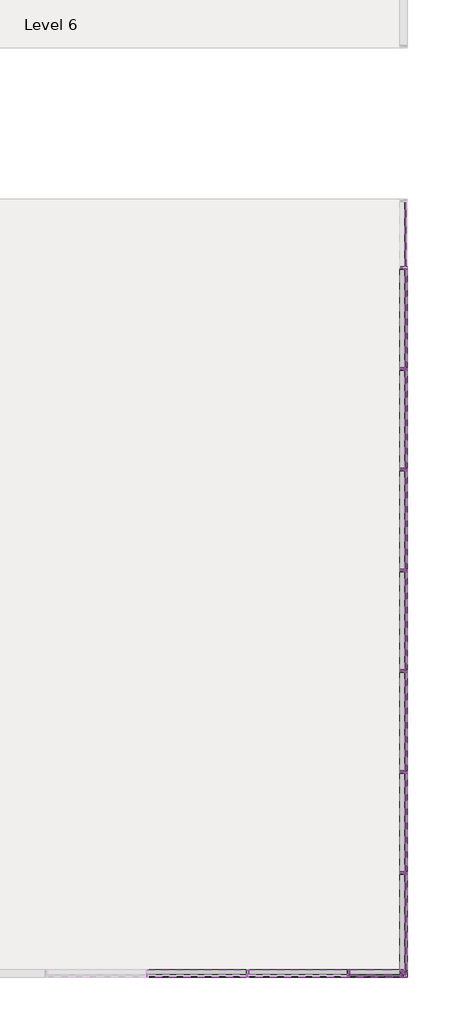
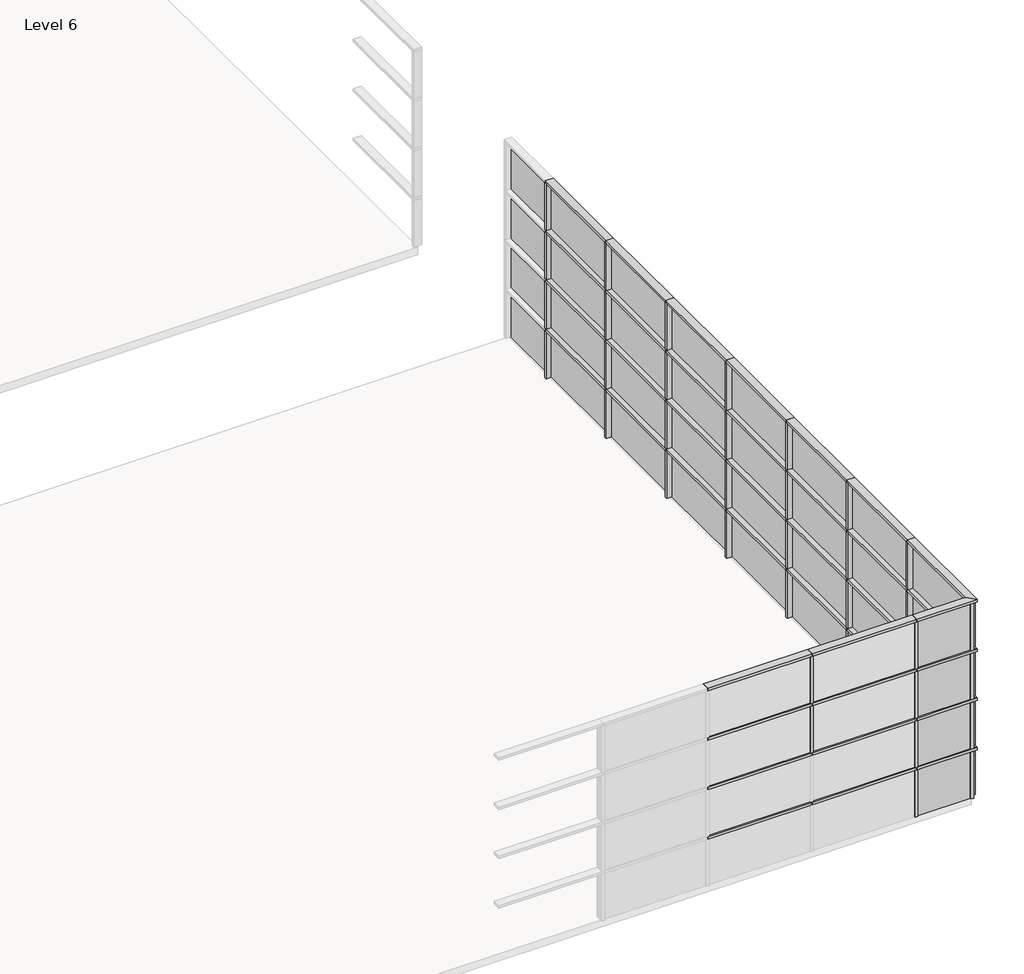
# One storey, part 3 of 5: 82 members, 36 plates.
"""IFC4 building model written with IfcOpenShell, lengths in millimetres."""

from ifc_helpers import new_model, si_unit, origin, place, context, project, spatial, transform, mapped, element, save
from components import rectangular_mullion_50_x_150mm_a053b0ca, rectangular_mullion_50_x_150mm_3a148f0f, rectangular_mullion_50_x_150mm_12a430f9, rectangular_mullion_50_x_150mm_947845bb, rectangular_mullion_50_x_150mm_f68fa77e, system_panel_glazed_751a585c, system_panel_glazed_08de6f5f, system_panel_glazed_3987acf4, system_panel_glazed_8ec8f306

model = new_model("IFC4")

# Units and contexts
model_context = context("Model", 3, world=origin())
ifc_project = project(units=[si_unit("LENGTHUNIT", "METRE", prefix="MILLI")], contexts=[model_context])

# Site, building, storey
site = spatial("IfcSite", under=ifc_project)
building = spatial("IfcBuilding", under=site)
storey = spatial("IfcBuildingStorey", under=building, Name="Level 6", Elevation=20000.0)

# Members
placement = place(None, origin())
rectangular_mullion_50_x_150mm_shape = rectangular_mullion_50_x_150mm_a053b0ca(model_context)
element("IfcMember", 1, ObjectType="Rectangular Mullion : 50 x 150mm", at=placement, inside=storey, context=model_context, shape_type="MappedRepresentation", body=[
    mapped(rectangular_mullion_50_x_150mm_shape, transform((10412.826594, -21988.7417365, 22025.0), x_axis=(1.0, 0.0, 0.0), y_axis=(0.0, -1.0, 0.0), z_axis=(0.0, 0.0, -0.9999999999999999))),
])
element("IfcMember", 2, ObjectType="Rectangular Mullion : 50 x 150mm", at=placement, inside=storey, context=model_context, shape_type="MappedRepresentation", body=[
    mapped(rectangular_mullion_50_x_150mm_shape, transform((10412.826594, -21988.7417365, 23025.0), x_axis=(1.0, 0.0, 0.0), y_axis=(0.0, -1.0, 0.0), z_axis=(0.0, 0.0, -0.9999999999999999))),
])
element("IfcMember", 3, ObjectType="Rectangular Mullion : 50 x 150mm", at=placement, inside=storey, context=model_context, shape_type="MappedRepresentation", body=[
    mapped(rectangular_mullion_50_x_150mm_shape, transform((12412.826594, -21988.7417365, 20025.0), x_axis=(1.0, 0.0, 0.0), y_axis=(0.0, -1.0, 0.0), z_axis=(0.0, 0.0, -0.9999999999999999))),
])
element("IfcMember", 4, ObjectType="Rectangular Mullion : 50 x 150mm", at=placement, inside=storey, context=model_context, shape_type="MappedRepresentation", body=[
    mapped(rectangular_mullion_50_x_150mm_shape, transform((12412.826594, -21988.7417365, 21025.0), x_axis=(1.0, 0.0, 0.0), y_axis=(0.0, -1.0, 0.0), z_axis=(0.0, 0.0, -0.9999999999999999))),
])
element("IfcMember", 5, ObjectType="Rectangular Mullion : 50 x 150mm", at=placement, inside=storey, context=model_context, shape_type="MappedRepresentation", body=[
    mapped(rectangular_mullion_50_x_150mm_shape, transform((12412.826594, -21988.7417365, 22025.0), x_axis=(1.0, 0.0, 0.0), y_axis=(0.0, -1.0, 0.0), z_axis=(0.0, 0.0, -0.9999999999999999))),
])
element("IfcMember", 6, ObjectType="Rectangular Mullion : 50 x 150mm", at=placement, inside=storey, context=model_context, shape_type="MappedRepresentation", body=[
    mapped(rectangular_mullion_50_x_150mm_shape, transform((12412.826594, -21988.7417365, 23025.0), x_axis=(1.0, 0.0, 0.0), y_axis=(0.0, -1.0, 0.0), z_axis=(0.0, 0.0, -0.9999999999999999))),
])
element("IfcMember", 7, ObjectType="Rectangular Mullion : 50 x 150mm", at=placement, inside=storey, context=model_context, shape_type="MappedRepresentation", body=[
    mapped(rectangular_mullion_50_x_150mm_shape, transform((13503.2660975, -13988.7417365, 20025.0), x_axis=(0.0, 1.0, 0.0), y_axis=(1.0, 0.0, 0.0), z_axis=(0.0, 0.0, -0.9999999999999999))),
])
element("IfcMember", 8, ObjectType="Rectangular Mullion : 50 x 150mm", at=placement, inside=storey, context=model_context, shape_type="MappedRepresentation", body=[
    mapped(rectangular_mullion_50_x_150mm_shape, transform((13503.2660975, -13988.7417365, 21025.0), x_axis=(0.0, 1.0, 0.0), y_axis=(1.0, 0.0, 0.0), z_axis=(0.0, 0.0, -0.9999999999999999))),
])
element("IfcMember", 9, ObjectType="Rectangular Mullion : 50 x 150mm", at=placement, inside=storey, context=model_context, shape_type="MappedRepresentation", body=[
    mapped(rectangular_mullion_50_x_150mm_shape, transform((13503.2660975, -13988.7417365, 22025.0), x_axis=(0.0, 1.0, 0.0), y_axis=(1.0, 0.0, 0.0), z_axis=(0.0, 0.0, -0.9999999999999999))),
])
element("IfcMember", 10, ObjectType="Rectangular Mullion : 50 x 150mm", at=placement, inside=storey, context=model_context, shape_type="MappedRepresentation", body=[
    mapped(rectangular_mullion_50_x_150mm_shape, transform((13503.2660975, -13988.7417365, 23025.0), x_axis=(0.0, 1.0, 0.0), y_axis=(1.0, 0.0, 0.0), z_axis=(0.0, 0.0, -0.9999999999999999))),
])
element("IfcMember", 11, ObjectType="Rectangular Mullion : 50 x 150mm", at=placement, inside=storey, context=model_context, shape_type="MappedRepresentation", body=[
    mapped(rectangular_mullion_50_x_150mm_shape, transform((13503.2660975, -11988.7417365, 20025.0), x_axis=(0.0, 1.0, 0.0), y_axis=(1.0, 0.0, 0.0), z_axis=(0.0, 0.0, -0.9999999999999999))),
])
element("IfcMember", 12, ObjectType="Rectangular Mullion : 50 x 150mm", at=placement, inside=storey, context=model_context, shape_type="MappedRepresentation", body=[
    mapped(rectangular_mullion_50_x_150mm_shape, transform((13503.2660975, -11988.7417365, 21025.0), x_axis=(0.0, 1.0, 0.0), y_axis=(1.0, 0.0, 0.0), z_axis=(0.0, 0.0, -0.9999999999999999))),
])
element("IfcMember", 13, ObjectType="Rectangular Mullion : 50 x 150mm", at=placement, inside=storey, context=model_context, shape_type="MappedRepresentation", body=[
    mapped(rectangular_mullion_50_x_150mm_shape, transform((13503.2660975, -11988.7417365, 22025.0), x_axis=(0.0, 1.0, 0.0), y_axis=(1.0, 0.0, 0.0), z_axis=(0.0, 0.0, -0.9999999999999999))),
])
element("IfcMember", 14, ObjectType="Rectangular Mullion : 50 x 150mm", at=placement, inside=storey, context=model_context, shape_type="MappedRepresentation", body=[
    mapped(rectangular_mullion_50_x_150mm_shape, transform((13503.2660975, -11988.7417365, 23025.0), x_axis=(0.0, 1.0, 0.0), y_axis=(1.0, 0.0, 0.0), z_axis=(0.0, 0.0, -0.9999999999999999))),
])
element("IfcMember", 15, ObjectType="Rectangular Mullion : 50 x 150mm", at=placement, inside=storey, context=model_context, shape_type="MappedRepresentation", body=[
    mapped(rectangular_mullion_50_x_150mm_shape, transform((13503.2660975, -9988.7417365, 20025.0), x_axis=(0.0, 1.0, 0.0), y_axis=(1.0, 0.0, 0.0), z_axis=(0.0, 0.0, -0.9999999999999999))),
])
element("IfcMember", 16, ObjectType="Rectangular Mullion : 50 x 150mm", at=placement, inside=storey, context=model_context, shape_type="MappedRepresentation", body=[
    mapped(rectangular_mullion_50_x_150mm_shape, transform((13503.2660975, -9988.7417365, 21025.0), x_axis=(0.0, 1.0, 0.0), y_axis=(1.0, 0.0, 0.0), z_axis=(0.0, 0.0, -0.9999999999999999))),
])
element("IfcMember", 17, ObjectType="Rectangular Mullion : 50 x 150mm", at=placement, inside=storey, context=model_context, shape_type="MappedRepresentation", body=[
    mapped(rectangular_mullion_50_x_150mm_shape, transform((13503.2660975, -9988.7417365, 22025.0), x_axis=(0.0, 1.0, 0.0), y_axis=(1.0, 0.0, 0.0), z_axis=(0.0, 0.0, -0.9999999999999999))),
])
element("IfcMember", 18, ObjectType="Rectangular Mullion : 50 x 150mm", at=placement, inside=storey, context=model_context, shape_type="MappedRepresentation", body=[
    mapped(rectangular_mullion_50_x_150mm_shape, transform((13503.2660975, -9988.7417365, 23025.0), x_axis=(0.0, 1.0, 0.0), y_axis=(1.0, 0.0, 0.0), z_axis=(0.0, 0.0, -0.9999999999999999))),
])
element("IfcMember", 19, ObjectType="Rectangular Mullion : 50 x 150mm", at=placement, inside=storey, context=model_context, shape_type="MappedRepresentation", body=[
    mapped(rectangular_mullion_50_x_150mm_shape, transform((13503.2660975, -7988.7417365, 20025.0), x_axis=(0.0, 1.0, 0.0), y_axis=(1.0, 0.0, 0.0), z_axis=(0.0, 0.0, -0.9999999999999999))),
])
element("IfcMember", 20, ObjectType="Rectangular Mullion : 50 x 150mm", at=placement, inside=storey, context=model_context, shape_type="MappedRepresentation", body=[
    mapped(rectangular_mullion_50_x_150mm_shape, transform((13503.2660975, -7988.7417365, 21025.0), x_axis=(0.0, 1.0, 0.0), y_axis=(1.0, 0.0, 0.0), z_axis=(0.0, 0.0, -0.9999999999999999))),
])
element("IfcMember", 21, ObjectType="Rectangular Mullion : 50 x 150mm", at=placement, inside=storey, context=model_context, shape_type="MappedRepresentation", body=[
    mapped(rectangular_mullion_50_x_150mm_shape, transform((13503.2660975, -7988.7417365, 22025.0), x_axis=(0.0, 1.0, 0.0), y_axis=(1.0, 0.0, 0.0), z_axis=(0.0, 0.0, -0.9999999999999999))),
])
element("IfcMember", 22, ObjectType="Rectangular Mullion : 50 x 150mm", at=placement, inside=storey, context=model_context, shape_type="MappedRepresentation", body=[
    mapped(rectangular_mullion_50_x_150mm_shape, transform((13503.2660975, -7988.7417365, 23025.0), x_axis=(0.0, 1.0, 0.0), y_axis=(1.0, 0.0, 0.0), z_axis=(0.0, 0.0, -0.9999999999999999))),
])
element("IfcMember", 23, ObjectType="Rectangular Mullion : 50 x 150mm", at=placement, inside=storey, context=model_context, shape_type="MappedRepresentation", body=[
    mapped(rectangular_mullion_50_x_150mm_shape, transform((13503.2660975, -19988.7417365, 20025.0), x_axis=(0.0, 1.0, 0.0), y_axis=(1.0, 0.0, 0.0), z_axis=(0.0, 0.0, -0.9999999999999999))),
])
element("IfcMember", 24, ObjectType="Rectangular Mullion : 50 x 150mm", at=placement, inside=storey, context=model_context, shape_type="MappedRepresentation", body=[
    mapped(rectangular_mullion_50_x_150mm_shape, transform((13503.2660975, -19988.7417365, 21025.0), x_axis=(0.0, 1.0, 0.0), y_axis=(1.0, 0.0, 0.0), z_axis=(0.0, 0.0, -0.9999999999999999))),
])
element("IfcMember", 25, ObjectType="Rectangular Mullion : 50 x 150mm", at=placement, inside=storey, context=model_context, shape_type="MappedRepresentation", body=[
    mapped(rectangular_mullion_50_x_150mm_shape, transform((13503.2660975, -19988.7417365, 22025.0), x_axis=(0.0, 1.0, 0.0), y_axis=(1.0, 0.0, 0.0), z_axis=(0.0, 0.0, -0.9999999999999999))),
])
element("IfcMember", 26, ObjectType="Rectangular Mullion : 50 x 150mm", at=placement, inside=storey, context=model_context, shape_type="MappedRepresentation", body=[
    mapped(rectangular_mullion_50_x_150mm_shape, transform((13503.2660975, -19988.7417365, 23025.0), x_axis=(0.0, 1.0, 0.0), y_axis=(1.0, 0.0, 0.0), z_axis=(0.0, 0.0, -0.9999999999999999))),
])
element("IfcMember", 27, ObjectType="Rectangular Mullion : 50 x 150mm", at=placement, inside=storey, context=model_context, shape_type="MappedRepresentation", body=[
    mapped(rectangular_mullion_50_x_150mm_shape, transform((13503.2660975, -17988.7417365, 20025.0), x_axis=(0.0, 1.0, 0.0), y_axis=(1.0, 0.0, 0.0), z_axis=(0.0, 0.0, -0.9999999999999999))),
])
element("IfcMember", 28, ObjectType="Rectangular Mullion : 50 x 150mm", at=placement, inside=storey, context=model_context, shape_type="MappedRepresentation", body=[
    mapped(rectangular_mullion_50_x_150mm_shape, transform((13503.2660975, -17988.7417365, 21025.0), x_axis=(0.0, 1.0, 0.0), y_axis=(1.0, 0.0, 0.0), z_axis=(0.0, 0.0, -0.9999999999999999))),
])
element("IfcMember", 29, ObjectType="Rectangular Mullion : 50 x 150mm", at=placement, inside=storey, context=model_context, shape_type="MappedRepresentation", body=[
    mapped(rectangular_mullion_50_x_150mm_shape, transform((13503.2660975, -17988.7417365, 22025.0), x_axis=(0.0, 1.0, 0.0), y_axis=(1.0, 0.0, 0.0), z_axis=(0.0, 0.0, -0.9999999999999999))),
])
element("IfcMember", 30, ObjectType="Rectangular Mullion : 50 x 150mm", at=placement, inside=storey, context=model_context, shape_type="MappedRepresentation", body=[
    mapped(rectangular_mullion_50_x_150mm_shape, transform((13503.2660975, -17988.7417365, 23025.0), x_axis=(0.0, 1.0, 0.0), y_axis=(1.0, 0.0, 0.0), z_axis=(0.0, 0.0, -0.9999999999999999))),
])
element("IfcMember", 31, ObjectType="Rectangular Mullion : 50 x 150mm", at=placement, inside=storey, context=model_context, shape_type="MappedRepresentation", body=[
    mapped(rectangular_mullion_50_x_150mm_shape, transform((13503.2660975, -15988.7417365, 20025.0), x_axis=(0.0, 1.0, 0.0), y_axis=(1.0, 0.0, 0.0), z_axis=(0.0, 0.0, -0.9999999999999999))),
])
element("IfcMember", 32, ObjectType="Rectangular Mullion : 50 x 150mm", at=placement, inside=storey, context=model_context, shape_type="MappedRepresentation", body=[
    mapped(rectangular_mullion_50_x_150mm_shape, transform((13503.2660975, -15988.7417365, 21025.0), x_axis=(0.0, 1.0, 0.0), y_axis=(1.0, 0.0, 0.0), z_axis=(0.0, 0.0, -0.9999999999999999))),
])
element("IfcMember", 33, ObjectType="Rectangular Mullion : 50 x 150mm", at=placement, inside=storey, context=model_context, shape_type="MappedRepresentation", body=[
    mapped(rectangular_mullion_50_x_150mm_shape, transform((13503.2660975, -15988.7417365, 22025.0), x_axis=(0.0, 1.0, 0.0), y_axis=(1.0, 0.0, 0.0), z_axis=(0.0, 0.0, -0.9999999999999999))),
])
element("IfcMember", 34, ObjectType="Rectangular Mullion : 50 x 150mm", at=placement, inside=storey, context=model_context, shape_type="MappedRepresentation", body=[
    mapped(rectangular_mullion_50_x_150mm_shape, transform((13503.2660975, -15988.7417365, 23025.0), x_axis=(0.0, 1.0, 0.0), y_axis=(1.0, 0.0, 0.0), z_axis=(0.0, 0.0, -0.9999999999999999))),
])
rectangular_mullion_50_x_150mm_2_shape = rectangular_mullion_50_x_150mm_3a148f0f(model_context)
element("IfcMember", 35, ObjectType="Rectangular Mullion : 50 x 150mm", at=placement, inside=storey, context=model_context, shape_type="MappedRepresentation", body=[
    mapped(rectangular_mullion_50_x_150mm_2_shape, transform((10412.826594, -21988.7417365, 21000.0), x_axis=(0.0, 0.0, 1.0), y_axis=(0.0, -1.0, 0.0), z_axis=(1.0, 0.0, 0.0))),
])
element("IfcMember", 36, ObjectType="Rectangular Mullion : 50 x 150mm", at=placement, inside=storey, context=model_context, shape_type="MappedRepresentation", body=[
    mapped(rectangular_mullion_50_x_150mm_2_shape, transform((12412.826594, -21988.7417365, 21000.0), x_axis=(0.0, 0.0, 1.0), y_axis=(0.0, -1.0, 0.0), z_axis=(1.0, 0.0, 0.0))),
])
element("IfcMember", 37, ObjectType="Rectangular Mullion : 50 x 150mm", at=placement, inside=storey, context=model_context, shape_type="MappedRepresentation", body=[
    mapped(rectangular_mullion_50_x_150mm_2_shape, transform((10412.826594, -21988.7417365, 22000.0), x_axis=(0.0, 0.0, 1.0), y_axis=(0.0, -1.0, 0.0), z_axis=(1.0, 0.0, 0.0))),
])
element("IfcMember", 38, ObjectType="Rectangular Mullion : 50 x 150mm", at=placement, inside=storey, context=model_context, shape_type="MappedRepresentation", body=[
    mapped(rectangular_mullion_50_x_150mm_2_shape, transform((12412.826594, -21988.7417365, 22000.0), x_axis=(0.0, 0.0, 1.0), y_axis=(0.0, -1.0, 0.0), z_axis=(1.0, 0.0, 0.0))),
])
element("IfcMember", 39, ObjectType="Rectangular Mullion : 50 x 150mm", at=placement, inside=storey, context=model_context, shape_type="MappedRepresentation", body=[
    mapped(rectangular_mullion_50_x_150mm_2_shape, transform((10412.826594, -21988.7417365, 23000.0), x_axis=(0.0, 0.0, 1.0), y_axis=(0.0, -1.0, 0.0), z_axis=(1.0, 0.0, 0.0))),
])
element("IfcMember", 40, ObjectType="Rectangular Mullion : 50 x 150mm", at=placement, inside=storey, context=model_context, shape_type="MappedRepresentation", body=[
    mapped(rectangular_mullion_50_x_150mm_2_shape, transform((12412.826594, -21988.7417365, 23000.0), x_axis=(0.0, 0.0, 1.0), y_axis=(0.0, -1.0, 0.0), z_axis=(1.0, 0.0, 0.0))),
])
element("IfcMember", 41, ObjectType="Rectangular Mullion : 50 x 150mm", at=placement, inside=storey, context=model_context, shape_type="MappedRepresentation", body=[
    mapped(rectangular_mullion_50_x_150mm_2_shape, transform((10412.826594, -21988.7417365, 24000.0), x_axis=(0.0, 0.0, 1.0), y_axis=(0.0, -1.0, 0.0), z_axis=(1.0, 0.0, 0.0))),
])
element("IfcMember", 42, ObjectType="Rectangular Mullion : 50 x 150mm", at=placement, inside=storey, context=model_context, shape_type="MappedRepresentation", body=[
    mapped(rectangular_mullion_50_x_150mm_2_shape, transform((12412.826594, -21988.7417365, 24000.0), x_axis=(0.0, 0.0, 1.0), y_axis=(0.0, -1.0, 0.0), z_axis=(1.0, 0.0, 0.0))),
])
element("IfcMember", 43, ObjectType="Rectangular Mullion : 50 x 150mm", at=placement, inside=storey, context=model_context, shape_type="MappedRepresentation", body=[
    mapped(rectangular_mullion_50_x_150mm_2_shape, transform((13503.2660975, -17988.7417365, 21000.0), x_axis=(0.0, 0.0, 1.0), y_axis=(1.0, 0.0, 0.0), z_axis=(0.0, 1.0, 0.0))),
])
element("IfcMember", 44, ObjectType="Rectangular Mullion : 50 x 150mm", at=placement, inside=storey, context=model_context, shape_type="MappedRepresentation", body=[
    mapped(rectangular_mullion_50_x_150mm_2_shape, transform((13503.2660975, -15988.7417365, 21000.0), x_axis=(0.0, 0.0, 1.0), y_axis=(1.0, 0.0, 0.0), z_axis=(0.0, 1.0, 0.0))),
])
element("IfcMember", 45, ObjectType="Rectangular Mullion : 50 x 150mm", at=placement, inside=storey, context=model_context, shape_type="MappedRepresentation", body=[
    mapped(rectangular_mullion_50_x_150mm_2_shape, transform((13503.2660975, -13988.7417365, 21000.0), x_axis=(0.0, 0.0, 1.0), y_axis=(1.0, 0.0, 0.0), z_axis=(0.0, 1.0, 0.0))),
])
element("IfcMember", 46, ObjectType="Rectangular Mullion : 50 x 150mm", at=placement, inside=storey, context=model_context, shape_type="MappedRepresentation", body=[
    mapped(rectangular_mullion_50_x_150mm_2_shape, transform((13503.2660975, -11988.7417365, 21000.0), x_axis=(0.0, 0.0, 1.0), y_axis=(1.0, 0.0, 0.0), z_axis=(0.0, 1.0, 0.0))),
])
element("IfcMember", 47, ObjectType="Rectangular Mullion : 50 x 150mm", at=placement, inside=storey, context=model_context, shape_type="MappedRepresentation", body=[
    mapped(rectangular_mullion_50_x_150mm_2_shape, transform((13503.2660975, -9988.7417365, 21000.0), x_axis=(0.0, 0.0, 1.0), y_axis=(1.0, 0.0, 0.0), z_axis=(0.0, 1.0, 0.0))),
])
element("IfcMember", 48, ObjectType="Rectangular Mullion : 50 x 150mm", at=placement, inside=storey, context=model_context, shape_type="MappedRepresentation", body=[
    mapped(rectangular_mullion_50_x_150mm_2_shape, transform((13503.2660975, -7988.7417365, 21000.0), x_axis=(0.0, 0.0, 1.0), y_axis=(1.0, 0.0, 0.0), z_axis=(0.0, 1.0, 0.0))),
])
element("IfcMember", 49, ObjectType="Rectangular Mullion : 50 x 150mm", at=placement, inside=storey, context=model_context, shape_type="MappedRepresentation", body=[
    mapped(rectangular_mullion_50_x_150mm_2_shape, transform((13503.2660975, -17988.7417365, 22000.0), x_axis=(0.0, 0.0, 1.0), y_axis=(1.0, 0.0, 0.0), z_axis=(0.0, 1.0, 0.0))),
])
element("IfcMember", 50, ObjectType="Rectangular Mullion : 50 x 150mm", at=placement, inside=storey, context=model_context, shape_type="MappedRepresentation", body=[
    mapped(rectangular_mullion_50_x_150mm_2_shape, transform((13503.2660975, -15988.7417365, 22000.0), x_axis=(0.0, 0.0, 1.0), y_axis=(1.0, 0.0, 0.0), z_axis=(0.0, 1.0, 0.0))),
])
element("IfcMember", 51, ObjectType="Rectangular Mullion : 50 x 150mm", at=placement, inside=storey, context=model_context, shape_type="MappedRepresentation", body=[
    mapped(rectangular_mullion_50_x_150mm_2_shape, transform((13503.2660975, -13988.7417365, 22000.0), x_axis=(0.0, 0.0, 1.0), y_axis=(1.0, 0.0, 0.0), z_axis=(0.0, 1.0, 0.0))),
])
element("IfcMember", 52, ObjectType="Rectangular Mullion : 50 x 150mm", at=placement, inside=storey, context=model_context, shape_type="MappedRepresentation", body=[
    mapped(rectangular_mullion_50_x_150mm_2_shape, transform((13503.2660975, -11988.7417365, 22000.0), x_axis=(0.0, 0.0, 1.0), y_axis=(1.0, 0.0, 0.0), z_axis=(0.0, 1.0, 0.0))),
])
element("IfcMember", 53, ObjectType="Rectangular Mullion : 50 x 150mm", at=placement, inside=storey, context=model_context, shape_type="MappedRepresentation", body=[
    mapped(rectangular_mullion_50_x_150mm_2_shape, transform((13503.2660975, -9988.7417365, 22000.0), x_axis=(0.0, 0.0, 1.0), y_axis=(1.0, 0.0, 0.0), z_axis=(0.0, 1.0, 0.0))),
])
element("IfcMember", 54, ObjectType="Rectangular Mullion : 50 x 150mm", at=placement, inside=storey, context=model_context, shape_type="MappedRepresentation", body=[
    mapped(rectangular_mullion_50_x_150mm_2_shape, transform((13503.2660975, -7988.7417365, 22000.0), x_axis=(0.0, 0.0, 1.0), y_axis=(1.0, 0.0, 0.0), z_axis=(0.0, 1.0, 0.0))),
])
element("IfcMember", 55, ObjectType="Rectangular Mullion : 50 x 150mm", at=placement, inside=storey, context=model_context, shape_type="MappedRepresentation", body=[
    mapped(rectangular_mullion_50_x_150mm_2_shape, transform((13503.2660975, -17988.7417365, 23000.0), x_axis=(0.0, 0.0, 1.0), y_axis=(1.0, 0.0, 0.0), z_axis=(0.0, 1.0, 0.0))),
])
element("IfcMember", 56, ObjectType="Rectangular Mullion : 50 x 150mm", at=placement, inside=storey, context=model_context, shape_type="MappedRepresentation", body=[
    mapped(rectangular_mullion_50_x_150mm_2_shape, transform((13503.2660975, -15988.7417365, 23000.0), x_axis=(0.0, 0.0, 1.0), y_axis=(1.0, 0.0, 0.0), z_axis=(0.0, 1.0, 0.0))),
])
element("IfcMember", 57, ObjectType="Rectangular Mullion : 50 x 150mm", at=placement, inside=storey, context=model_context, shape_type="MappedRepresentation", body=[
    mapped(rectangular_mullion_50_x_150mm_2_shape, transform((13503.2660975, -13988.7417365, 23000.0), x_axis=(0.0, 0.0, 1.0), y_axis=(1.0, 0.0, 0.0), z_axis=(0.0, 1.0, 0.0))),
])
element("IfcMember", 58, ObjectType="Rectangular Mullion : 50 x 150mm", at=placement, inside=storey, context=model_context, shape_type="MappedRepresentation", body=[
    mapped(rectangular_mullion_50_x_150mm_2_shape, transform((13503.2660975, -11988.7417365, 23000.0), x_axis=(0.0, 0.0, 1.0), y_axis=(1.0, 0.0, 0.0), z_axis=(0.0, 1.0, 0.0))),
])
element("IfcMember", 59, ObjectType="Rectangular Mullion : 50 x 150mm", at=placement, inside=storey, context=model_context, shape_type="MappedRepresentation", body=[
    mapped(rectangular_mullion_50_x_150mm_2_shape, transform((13503.2660975, -9988.7417365, 23000.0), x_axis=(0.0, 0.0, 1.0), y_axis=(1.0, 0.0, 0.0), z_axis=(0.0, 1.0, 0.0))),
])
element("IfcMember", 60, ObjectType="Rectangular Mullion : 50 x 150mm", at=placement, inside=storey, context=model_context, shape_type="MappedRepresentation", body=[
    mapped(rectangular_mullion_50_x_150mm_2_shape, transform((13503.2660975, -7988.7417365, 23000.0), x_axis=(0.0, 0.0, 1.0), y_axis=(1.0, 0.0, 0.0), z_axis=(0.0, 1.0, 0.0))),
])
element("IfcMember", 61, ObjectType="Rectangular Mullion : 50 x 150mm", at=placement, inside=storey, context=model_context, shape_type="MappedRepresentation", body=[
    mapped(rectangular_mullion_50_x_150mm_2_shape, transform((13503.2660975, -17988.7417365, 24000.0), x_axis=(0.0, 0.0, 1.0), y_axis=(1.0, 0.0, 0.0), z_axis=(0.0, 1.0, 0.0))),
])
element("IfcMember", 62, ObjectType="Rectangular Mullion : 50 x 150mm", at=placement, inside=storey, context=model_context, shape_type="MappedRepresentation", body=[
    mapped(rectangular_mullion_50_x_150mm_2_shape, transform((13503.2660975, -15988.7417365, 24000.0), x_axis=(0.0, 0.0, 1.0), y_axis=(1.0, 0.0, 0.0), z_axis=(0.0, 1.0, 0.0))),
])
element("IfcMember", 63, ObjectType="Rectangular Mullion : 50 x 150mm", at=placement, inside=storey, context=model_context, shape_type="MappedRepresentation", body=[
    mapped(rectangular_mullion_50_x_150mm_2_shape, transform((13503.2660975, -13988.7417365, 24000.0), x_axis=(0.0, 0.0, 1.0), y_axis=(1.0, 0.0, 0.0), z_axis=(0.0, 1.0, 0.0))),
])
element("IfcMember", 64, ObjectType="Rectangular Mullion : 50 x 150mm", at=placement, inside=storey, context=model_context, shape_type="MappedRepresentation", body=[
    mapped(rectangular_mullion_50_x_150mm_2_shape, transform((13503.2660975, -11988.7417365, 24000.0), x_axis=(0.0, 0.0, 1.0), y_axis=(1.0, 0.0, 0.0), z_axis=(0.0, 1.0, 0.0))),
])
element("IfcMember", 65, ObjectType="Rectangular Mullion : 50 x 150mm", at=placement, inside=storey, context=model_context, shape_type="MappedRepresentation", body=[
    mapped(rectangular_mullion_50_x_150mm_2_shape, transform((13503.2660975, -9988.7417365, 24000.0), x_axis=(0.0, 0.0, 1.0), y_axis=(1.0, 0.0, 0.0), z_axis=(0.0, 1.0, 0.0))),
])
element("IfcMember", 66, ObjectType="Rectangular Mullion : 50 x 150mm", at=placement, inside=storey, context=model_context, shape_type="MappedRepresentation", body=[
    mapped(rectangular_mullion_50_x_150mm_2_shape, transform((13503.2660975, -7988.7417365, 24000.0), x_axis=(0.0, 0.0, 1.0), y_axis=(1.0, 0.0, 0.0), z_axis=(0.0, 1.0, 0.0))),
])
rectangular_mullion_50_x_150mm_3_shape = rectangular_mullion_50_x_150mm_12a430f9(model_context)
element("IfcMember", 67, ObjectType="Rectangular Mullion : 50 x 150mm", at=placement, inside=storey, context=model_context, shape_type="MappedRepresentation", body=[
    mapped(rectangular_mullion_50_x_150mm_3_shape, transform((13503.2660975, -21988.7417365, 20975.0), x_axis=(0.0, -1.0, 0.0), y_axis=(1.0, 0.0, 0.0), z_axis=(0.0, 0.0, 0.9999999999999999))),
])
element("IfcMember", 68, ObjectType="Rectangular Mullion : 50 x 150mm", at=placement, inside=storey, context=model_context, shape_type="MappedRepresentation", body=[
    mapped(rectangular_mullion_50_x_150mm_3_shape, transform((13503.2660975, -21988.7417365, 21975.0), x_axis=(0.0, -1.0, 0.0), y_axis=(1.0, 0.0, 0.0), z_axis=(0.0, 0.0, 0.9999999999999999))),
])
element("IfcMember", 69, ObjectType="Rectangular Mullion : 50 x 150mm", at=placement, inside=storey, context=model_context, shape_type="MappedRepresentation", body=[
    mapped(rectangular_mullion_50_x_150mm_3_shape, transform((13503.2660975, -21988.7417365, 22975.0), x_axis=(0.0, -1.0, 0.0), y_axis=(1.0, 0.0, 0.0), z_axis=(0.0, 0.0, 0.9999999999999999))),
])
element("IfcMember", 70, ObjectType="Rectangular Mullion : 50 x 150mm", at=placement, inside=storey, context=model_context, shape_type="MappedRepresentation", body=[
    mapped(rectangular_mullion_50_x_150mm_3_shape, transform((13503.2660975, -21988.7417365, 23975.0), x_axis=(0.0, -1.0, 0.0), y_axis=(1.0, 0.0, 0.0), z_axis=(0.0, 0.0, 0.9999999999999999))),
])
element("IfcMember", 71, ObjectType="Rectangular Mullion : 50 x 150mm", at=placement, inside=storey, context=model_context, shape_type="MappedRepresentation", body=[
    mapped(rectangular_mullion_50_x_150mm_3_shape, transform((13503.2660975, -21988.7417365, 20025.0), x_axis=(1.0, 0.0, 0.0), y_axis=(0.0, -1.0, 0.0), z_axis=(0.0, 0.0, -0.9999999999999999))),
])
element("IfcMember", 72, ObjectType="Rectangular Mullion : 50 x 150mm", at=placement, inside=storey, context=model_context, shape_type="MappedRepresentation", body=[
    mapped(rectangular_mullion_50_x_150mm_3_shape, transform((13503.2660975, -21988.7417365, 21025.0), x_axis=(1.0, 0.0, 0.0), y_axis=(0.0, -1.0, 0.0), z_axis=(0.0, 0.0, -0.9999999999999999))),
])
element("IfcMember", 73, ObjectType="Rectangular Mullion : 50 x 150mm", at=placement, inside=storey, context=model_context, shape_type="MappedRepresentation", body=[
    mapped(rectangular_mullion_50_x_150mm_3_shape, transform((13503.2660975, -21988.7417365, 22025.0), x_axis=(1.0, 0.0, 0.0), y_axis=(0.0, -1.0, 0.0), z_axis=(0.0, 0.0, -0.9999999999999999))),
])
element("IfcMember", 74, ObjectType="Rectangular Mullion : 50 x 150mm", at=placement, inside=storey, context=model_context, shape_type="MappedRepresentation", body=[
    mapped(rectangular_mullion_50_x_150mm_3_shape, transform((13503.2660975, -21988.7417365, 23025.0), x_axis=(1.0, 0.0, 0.0), y_axis=(0.0, -1.0, 0.0), z_axis=(0.0, 0.0, -0.9999999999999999))),
])
rectangular_mullion_50_x_150mm_4_shape = rectangular_mullion_50_x_150mm_947845bb(model_context)
element("IfcMember", 75, ObjectType="Rectangular Mullion : 50 x 150mm", at=placement, inside=storey, context=model_context, shape_type="MappedRepresentation", body=[
    mapped(rectangular_mullion_50_x_150mm_4_shape, transform((13503.2660975, -19988.7417365, 21000.0), x_axis=(0.0, 0.0, 1.0), y_axis=(1.0, 0.0, 0.0), z_axis=(0.0, 1.0, 0.0))),
])
element("IfcMember", 76, ObjectType="Rectangular Mullion : 50 x 150mm", at=placement, inside=storey, context=model_context, shape_type="MappedRepresentation", body=[
    mapped(rectangular_mullion_50_x_150mm_4_shape, transform((13503.2660975, -19988.7417365, 22000.0), x_axis=(0.0, 0.0, 1.0), y_axis=(1.0, 0.0, 0.0), z_axis=(0.0, 1.0, 0.0))),
])
element("IfcMember", 77, ObjectType="Rectangular Mullion : 50 x 150mm", at=placement, inside=storey, context=model_context, shape_type="MappedRepresentation", body=[
    mapped(rectangular_mullion_50_x_150mm_4_shape, transform((13503.2660975, -19988.7417365, 23000.0), x_axis=(0.0, 0.0, 1.0), y_axis=(1.0, 0.0, 0.0), z_axis=(0.0, 1.0, 0.0))),
])
element("IfcMember", 78, ObjectType="Rectangular Mullion : 50 x 150mm", at=placement, inside=storey, context=model_context, shape_type="MappedRepresentation", body=[
    mapped(rectangular_mullion_50_x_150mm_4_shape, transform((13503.2660975, -19988.7417365, 24000.0), x_axis=(0.0, 0.0, 1.0), y_axis=(1.0, 0.0, 0.0), z_axis=(0.0, 1.0, 0.0))),
])
rectangular_mullion_50_x_150mm_5_shape = rectangular_mullion_50_x_150mm_f68fa77e(model_context)
element("IfcMember", 79, ObjectType="Rectangular Mullion : 50 x 150mm", at=placement, inside=storey, context=model_context, shape_type="MappedRepresentation", body=[
    mapped(rectangular_mullion_50_x_150mm_5_shape, transform((13503.2660975, -21988.7417365, 21000.0), x_axis=(0.0, 0.0, 1.0), y_axis=(0.0, -1.0, 0.0), z_axis=(0.9999999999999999, 0.0, 0.0))),
])
element("IfcMember", 80, ObjectType="Rectangular Mullion : 50 x 150mm", at=placement, inside=storey, context=model_context, shape_type="MappedRepresentation", body=[
    mapped(rectangular_mullion_50_x_150mm_5_shape, transform((13503.2660975, -21988.7417365, 22000.0), x_axis=(0.0, 0.0, 1.0), y_axis=(0.0, -1.0, 0.0), z_axis=(0.9999999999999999, 0.0, 0.0))),
])
element("IfcMember", 81, ObjectType="Rectangular Mullion : 50 x 150mm", at=placement, inside=storey, context=model_context, shape_type="MappedRepresentation", body=[
    mapped(rectangular_mullion_50_x_150mm_5_shape, transform((13503.2660975, -21988.7417365, 23000.0), x_axis=(0.0, 0.0, 1.0), y_axis=(0.0, -1.0, 0.0), z_axis=(0.9999999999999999, 0.0, 0.0))),
])
element("IfcMember", 82, ObjectType="Rectangular Mullion : 50 x 150mm", at=placement, inside=storey, context=model_context, shape_type="MappedRepresentation", body=[
    mapped(rectangular_mullion_50_x_150mm_5_shape, transform((13503.2660975, -21988.7417365, 24000.0), x_axis=(0.0, 0.0, 1.0), y_axis=(0.0, -1.0, 0.0), z_axis=(0.9999999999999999, 0.0, 0.0))),
])

# Plates
system_panel_glazed_shape = system_panel_glazed_751a585c(model_context)
element("IfcPlate", 83, ObjectType="System Panel : Glazed", at=placement, inside=storey, context=model_context, shape_type="MappedRepresentation", body=[
    mapped(system_panel_glazed_shape, transform((13503.2660975, -21938.7417365, 20500.0), x_axis=(0.0, 0.0, 1.0), y_axis=(1.0, 0.0, 0.0), z_axis=(0.0, 1.0, 0.0))),
])
element("IfcPlate", 84, ObjectType="System Panel : Glazed", at=placement, inside=storey, context=model_context, shape_type="MappedRepresentation", body=[
    mapped(system_panel_glazed_shape, transform((13503.2660975, -21938.7417365, 21500.0), x_axis=(0.0, 0.0, 1.0), y_axis=(1.0, 0.0, 0.0), z_axis=(0.0, 1.0, 0.0))),
])
element("IfcPlate", 85, ObjectType="System Panel : Glazed", at=placement, inside=storey, context=model_context, shape_type="MappedRepresentation", body=[
    mapped(system_panel_glazed_shape, transform((13503.2660975, -21938.7417365, 22500.0), x_axis=(0.0, 0.0, 1.0), y_axis=(1.0, 0.0, 0.0), z_axis=(0.0, 1.0, 0.0))),
])
element("IfcPlate", 86, ObjectType="System Panel : Glazed", at=placement, inside=storey, context=model_context, shape_type="MappedRepresentation", body=[
    mapped(system_panel_glazed_shape, transform((13503.2660975, -21938.7417365, 23500.0), x_axis=(0.0, 0.0, 1.0), y_axis=(1.0, 0.0, 0.0), z_axis=(0.0, 1.0, 0.0))),
])
system_panel_glazed_2_shape = system_panel_glazed_08de6f5f(model_context)
element("IfcPlate", 87, ObjectType="System Panel : Glazed", at=placement, inside=storey, context=model_context, shape_type="MappedRepresentation", body=[
    mapped(system_panel_glazed_2_shape, transform((13503.2660975, -19963.7417365, 20500.0), x_axis=(0.0, 0.0, 1.0), y_axis=(1.0, 0.0, 0.0), z_axis=(0.0, 1.0, 0.0))),
])
element("IfcPlate", 88, ObjectType="System Panel : Glazed", at=placement, inside=storey, context=model_context, shape_type="MappedRepresentation", body=[
    mapped(system_panel_glazed_2_shape, transform((13503.2660975, -17963.7417365, 20500.0), x_axis=(0.0, 0.0, 1.0), y_axis=(1.0, 0.0, 0.0), z_axis=(0.0, 1.0, 0.0))),
])
element("IfcPlate", 89, ObjectType="System Panel : Glazed", at=placement, inside=storey, context=model_context, shape_type="MappedRepresentation", body=[
    mapped(system_panel_glazed_2_shape, transform((13503.2660975, -15963.7417365, 20500.0), x_axis=(0.0, 0.0, 1.0), y_axis=(1.0, 0.0, 0.0), z_axis=(0.0, 1.0, 0.0))),
])
element("IfcPlate", 90, ObjectType="System Panel : Glazed", at=placement, inside=storey, context=model_context, shape_type="MappedRepresentation", body=[
    mapped(system_panel_glazed_2_shape, transform((13503.2660975, -13963.7417365, 20500.0), x_axis=(0.0, 0.0, 1.0), y_axis=(1.0, 0.0, 0.0), z_axis=(0.0, 1.0, 0.0))),
])
element("IfcPlate", 91, ObjectType="System Panel : Glazed", at=placement, inside=storey, context=model_context, shape_type="MappedRepresentation", body=[
    mapped(system_panel_glazed_2_shape, transform((13503.2660975, -11963.7417365, 20500.0), x_axis=(0.0, 0.0, 1.0), y_axis=(1.0, 0.0, 0.0), z_axis=(0.0, 1.0, 0.0))),
])
element("IfcPlate", 92, ObjectType="System Panel : Glazed", at=placement, inside=storey, context=model_context, shape_type="MappedRepresentation", body=[
    mapped(system_panel_glazed_2_shape, transform((13503.2660975, -9963.7417365, 20500.0), x_axis=(0.0, 0.0, 1.0), y_axis=(1.0, 0.0, 0.0), z_axis=(0.0, 1.0, 0.0))),
])
element("IfcPlate", 93, ObjectType="System Panel : Glazed", at=placement, inside=storey, context=model_context, shape_type="MappedRepresentation", body=[
    mapped(system_panel_glazed_2_shape, transform((13503.2660975, -19963.7417365, 21500.0), x_axis=(0.0, 0.0, 1.0), y_axis=(1.0, 0.0, 0.0), z_axis=(0.0, 1.0, 0.0))),
])
element("IfcPlate", 94, ObjectType="System Panel : Glazed", at=placement, inside=storey, context=model_context, shape_type="MappedRepresentation", body=[
    mapped(system_panel_glazed_2_shape, transform((13503.2660975, -17963.7417365, 21500.0), x_axis=(0.0, 0.0, 1.0), y_axis=(1.0, 0.0, 0.0), z_axis=(0.0, 1.0, 0.0))),
])
element("IfcPlate", 95, ObjectType="System Panel : Glazed", at=placement, inside=storey, context=model_context, shape_type="MappedRepresentation", body=[
    mapped(system_panel_glazed_2_shape, transform((13503.2660975, -15963.7417365, 21500.0), x_axis=(0.0, 0.0, 1.0), y_axis=(1.0, 0.0, 0.0), z_axis=(0.0, 1.0, 0.0))),
])
element("IfcPlate", 96, ObjectType="System Panel : Glazed", at=placement, inside=storey, context=model_context, shape_type="MappedRepresentation", body=[
    mapped(system_panel_glazed_2_shape, transform((13503.2660975, -13963.7417365, 21500.0), x_axis=(0.0, 0.0, 1.0), y_axis=(1.0, 0.0, 0.0), z_axis=(0.0, 1.0, 0.0))),
])
element("IfcPlate", 97, ObjectType="System Panel : Glazed", at=placement, inside=storey, context=model_context, shape_type="MappedRepresentation", body=[
    mapped(system_panel_glazed_2_shape, transform((13503.2660975, -11963.7417365, 21500.0), x_axis=(0.0, 0.0, 1.0), y_axis=(1.0, 0.0, 0.0), z_axis=(0.0, 1.0, 0.0))),
])
element("IfcPlate", 98, ObjectType="System Panel : Glazed", at=placement, inside=storey, context=model_context, shape_type="MappedRepresentation", body=[
    mapped(system_panel_glazed_2_shape, transform((13503.2660975, -9963.7417365, 21500.0), x_axis=(0.0, 0.0, 1.0), y_axis=(1.0, 0.0, 0.0), z_axis=(0.0, 1.0, 0.0))),
])
element("IfcPlate", 99, ObjectType="System Panel : Glazed", at=placement, inside=storey, context=model_context, shape_type="MappedRepresentation", body=[
    mapped(system_panel_glazed_2_shape, transform((13503.2660975, -19963.7417365, 22500.0), x_axis=(0.0, 0.0, 1.0), y_axis=(1.0, 0.0, 0.0), z_axis=(0.0, 1.0, 0.0))),
])
element("IfcPlate", 100, ObjectType="System Panel : Glazed", at=placement, inside=storey, context=model_context, shape_type="MappedRepresentation", body=[
    mapped(system_panel_glazed_2_shape, transform((13503.2660975, -17963.7417365, 22500.0), x_axis=(0.0, 0.0, 1.0), y_axis=(1.0, 0.0, 0.0), z_axis=(0.0, 1.0, 0.0))),
])
element("IfcPlate", 101, ObjectType="System Panel : Glazed", at=placement, inside=storey, context=model_context, shape_type="MappedRepresentation", body=[
    mapped(system_panel_glazed_2_shape, transform((13503.2660975, -15963.7417365, 22500.0), x_axis=(0.0, 0.0, 1.0), y_axis=(1.0, 0.0, 0.0), z_axis=(0.0, 1.0, 0.0))),
])
element("IfcPlate", 102, ObjectType="System Panel : Glazed", at=placement, inside=storey, context=model_context, shape_type="MappedRepresentation", body=[
    mapped(system_panel_glazed_2_shape, transform((13503.2660975, -13963.7417365, 22500.0), x_axis=(0.0, 0.0, 1.0), y_axis=(1.0, 0.0, 0.0), z_axis=(0.0, 1.0, 0.0))),
])
element("IfcPlate", 103, ObjectType="System Panel : Glazed", at=placement, inside=storey, context=model_context, shape_type="MappedRepresentation", body=[
    mapped(system_panel_glazed_2_shape, transform((13503.2660975, -11963.7417365, 22500.0), x_axis=(0.0, 0.0, 1.0), y_axis=(1.0, 0.0, 0.0), z_axis=(0.0, 1.0, 0.0))),
])
element("IfcPlate", 104, ObjectType="System Panel : Glazed", at=placement, inside=storey, context=model_context, shape_type="MappedRepresentation", body=[
    mapped(system_panel_glazed_2_shape, transform((13503.2660975, -9963.7417365, 22500.0), x_axis=(0.0, 0.0, 1.0), y_axis=(1.0, 0.0, 0.0), z_axis=(0.0, 1.0, 0.0))),
])
element("IfcPlate", 105, ObjectType="System Panel : Glazed", at=placement, inside=storey, context=model_context, shape_type="MappedRepresentation", body=[
    mapped(system_panel_glazed_2_shape, transform((13503.2660975, -19963.7417365, 23500.0), x_axis=(0.0, 0.0, 1.0), y_axis=(1.0, 0.0, 0.0), z_axis=(0.0, 1.0, 0.0))),
])
element("IfcPlate", 106, ObjectType="System Panel : Glazed", at=placement, inside=storey, context=model_context, shape_type="MappedRepresentation", body=[
    mapped(system_panel_glazed_2_shape, transform((13503.2660975, -17963.7417365, 23500.0), x_axis=(0.0, 0.0, 1.0), y_axis=(1.0, 0.0, 0.0), z_axis=(0.0, 1.0, 0.0))),
])
element("IfcPlate", 107, ObjectType="System Panel : Glazed", at=placement, inside=storey, context=model_context, shape_type="MappedRepresentation", body=[
    mapped(system_panel_glazed_2_shape, transform((13503.2660975, -15963.7417365, 23500.0), x_axis=(0.0, 0.0, 1.0), y_axis=(1.0, 0.0, 0.0), z_axis=(0.0, 1.0, 0.0))),
])
element("IfcPlate", 108, ObjectType="System Panel : Glazed", at=placement, inside=storey, context=model_context, shape_type="MappedRepresentation", body=[
    mapped(system_panel_glazed_2_shape, transform((13503.2660975, -13963.7417365, 23500.0), x_axis=(0.0, 0.0, 1.0), y_axis=(1.0, 0.0, 0.0), z_axis=(0.0, 1.0, 0.0))),
])
element("IfcPlate", 109, ObjectType="System Panel : Glazed", at=placement, inside=storey, context=model_context, shape_type="MappedRepresentation", body=[
    mapped(system_panel_glazed_2_shape, transform((13503.2660975, -11963.7417365, 23500.0), x_axis=(0.0, 0.0, 1.0), y_axis=(1.0, 0.0, 0.0), z_axis=(0.0, 1.0, 0.0))),
])
element("IfcPlate", 110, ObjectType="System Panel : Glazed", at=placement, inside=storey, context=model_context, shape_type="MappedRepresentation", body=[
    mapped(system_panel_glazed_2_shape, transform((13503.2660975, -9963.7417365, 23500.0), x_axis=(0.0, 0.0, 1.0), y_axis=(1.0, 0.0, 0.0), z_axis=(0.0, 1.0, 0.0))),
])
system_panel_glazed_3_shape = system_panel_glazed_3987acf4(model_context)
element("IfcPlate", 111, ObjectType="System Panel : Glazed", at=placement, inside=storey, context=model_context, shape_type="MappedRepresentation", body=[
    mapped(system_panel_glazed_3_shape, transform((12437.826594, -21988.7417365, 20500.0), x_axis=(0.0, 0.0, 1.0), y_axis=(0.0, -1.0, 0.0), z_axis=(1.0, 0.0, 0.0))),
])
element("IfcPlate", 112, ObjectType="System Panel : Glazed", at=placement, inside=storey, context=model_context, shape_type="MappedRepresentation", body=[
    mapped(system_panel_glazed_3_shape, transform((12437.826594, -21988.7417365, 21500.0), x_axis=(0.0, 0.0, 1.0), y_axis=(0.0, -1.0, 0.0), z_axis=(1.0, 0.0, 0.0))),
])
element("IfcPlate", 113, ObjectType="System Panel : Glazed", at=placement, inside=storey, context=model_context, shape_type="MappedRepresentation", body=[
    mapped(system_panel_glazed_3_shape, transform((12437.826594, -21988.7417365, 22500.0), x_axis=(0.0, 0.0, 1.0), y_axis=(0.0, -1.0, 0.0), z_axis=(1.0, 0.0, 0.0))),
])
element("IfcPlate", 114, ObjectType="System Panel : Glazed", at=placement, inside=storey, context=model_context, shape_type="MappedRepresentation", body=[
    mapped(system_panel_glazed_3_shape, transform((12437.826594, -21988.7417365, 23500.0), x_axis=(0.0, 0.0, 1.0), y_axis=(0.0, -1.0, 0.0), z_axis=(1.0, 0.0, 0.0))),
])
system_panel_glazed_4_shape = system_panel_glazed_8ec8f306(model_context)
element("IfcPlate", 115, ObjectType="System Panel : Glazed", at=placement, inside=storey, context=model_context, shape_type="MappedRepresentation", body=[
    mapped(system_panel_glazed_4_shape, transform((13503.2660975, -7963.7417365, 20500.0), x_axis=(0.0, 0.0, 1.0), y_axis=(1.0, 0.0, 0.0), z_axis=(0.0, 1.0, 0.0))),
])
element("IfcPlate", 116, ObjectType="System Panel : Glazed", at=placement, inside=storey, context=model_context, shape_type="MappedRepresentation", body=[
    mapped(system_panel_glazed_4_shape, transform((13503.2660975, -7963.7417365, 21500.0), x_axis=(0.0, 0.0, 1.0), y_axis=(1.0, 0.0, 0.0), z_axis=(0.0, 1.0, 0.0))),
])
element("IfcPlate", 117, ObjectType="System Panel : Glazed", at=placement, inside=storey, context=model_context, shape_type="MappedRepresentation", body=[
    mapped(system_panel_glazed_4_shape, transform((13503.2660975, -7963.7417365, 22500.0), x_axis=(0.0, 0.0, 1.0), y_axis=(1.0, 0.0, 0.0), z_axis=(0.0, 1.0, 0.0))),
])
element("IfcPlate", 118, ObjectType="System Panel : Glazed", at=placement, inside=storey, context=model_context, shape_type="MappedRepresentation", body=[
    mapped(system_panel_glazed_4_shape, transform((13503.2660975, -7963.7417365, 23500.0), x_axis=(0.0, 0.0, 1.0), y_axis=(1.0, 0.0, 0.0), z_axis=(0.0, 1.0, 0.0))),
])

save(model, "model.ifc")
